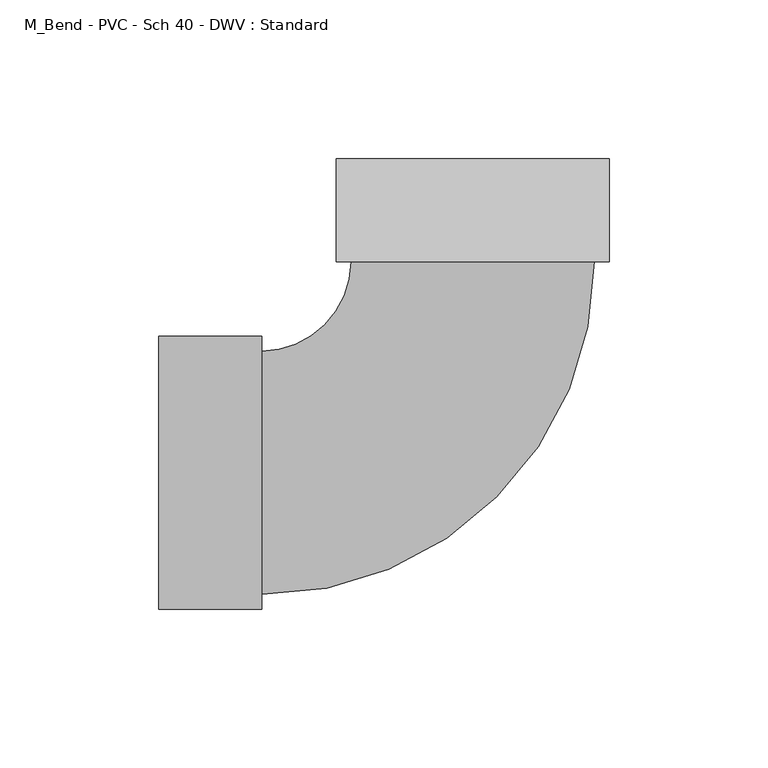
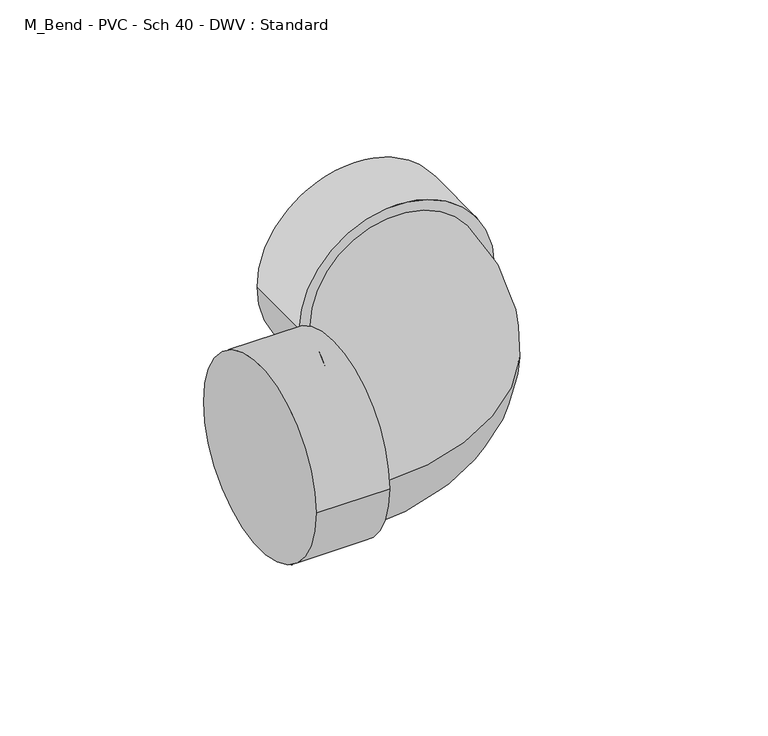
"""IFC4 building model written with IfcOpenShell, lengths in millimetres: pipe fitting geometry, M_Bend - PVC - Sch 40 - DWV : Standard."""

from ifc_helpers import new_model, si_unit, point, frame, origin, place, context, project, spatial, circle_curve, ellipse_curve, trimmed, source, transform, mapped, element, save
from ifc_brep_helpers import plane_surface, cylinder_surface, revolved_surface, advanced_brep


def m_bend_pvc_sch_40_dwv_standard_33e831c1(model_context):
    return source(origin(), model_context, "Body", "AdvancedBrep", [
        advanced_brep(
        [(-99.0140625, -43.0871094, 0.0), (-99.0140625, 43.0871094, 0.0), (-66.5140625, -43.0871094, 0.0), (-66.5140625, 43.0871094, 0.0), (-66.5140625, -38.3640625, 0.0), (-66.5140625, 38.3640625, 0.0), (-38.3574116, 66.5178982, 0.0), (38.370713, 66.5102261, 0.0), (43.0937599, 66.5097539, 0.0), (-43.0804584, 66.5183704, 0.0), (43.0970096, 99.0097537, 0.0), (-43.0772087, 99.0183703, 0.0)],
        [
            (0, 1, circle_curve(frame((-99.0140625, 0.0, 0.0), z_axis=(-1.0, 0.0, 0.0), x_axis=(0.0, 1.0, 0.0)), 43.0871094)),
            (1, 0, circle_curve(frame((-99.0140625, 0.0, 0.0), z_axis=(-1.0, 0.0, 0.0), x_axis=(0.0, 1.0, 0.0)), 43.0871094)),
            (2, 3, circle_curve(frame((-66.5140625, 0.0, 0.0), z_axis=(1.0, 0.0, 0.0), x_axis=(0.0, 1.0, 0.0)), 43.0871094)),
            (3, 2, circle_curve(frame((-66.5140625, 0.0, 0.0), z_axis=(1.0, 0.0, 0.0), x_axis=(0.0, 1.0, 0.0)), 43.0871094)),
            (4, 5, circle_curve(frame((-66.5140625, 0.0, 0.0), z_axis=(-1.0, 0.0, 0.0), x_axis=(0.0, 1.0, 0.0)), 38.3640625)),
            (5, 4, circle_curve(frame((-66.5140625, 0.0, 0.0), z_axis=(-1.0, 0.0, 0.0), x_axis=(0.0, 1.0, 0.0)), 38.3640625)),
            (0, 2),
            (3, 1),
            (6, 5, circle_curve(frame((-66.5140625, 66.5207136, 0.0), z_axis=(0.0, 0.0, -1.0), x_axis=(0.0, -1.0, 0.0)), 28.1566511)),
            (4, 7, circle_curve(frame((-66.5140625, 66.5207136, 0.0), z_axis=(0.0, 0.0, 1.0), x_axis=(0.0, -1.0, 0.0)), 104.8847761)),
            (7, 6, circle_curve(frame((0.0066507, 66.5140622, 0.0), z_axis=(-9.999000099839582e-05, -0.9999999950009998, 0.0), x_axis=(-0.9999999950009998, 9.999000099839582e-05, 0.0)), 38.3640625)),
            (6, 7, circle_curve(frame((0.0066507, 66.5140622, 0.0), z_axis=(-9.999000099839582e-05, -0.9999999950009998, 0.0), x_axis=(-0.9999999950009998, 9.999000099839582e-05, 0.0)), 38.3640625)),
            (8, 9, circle_curve(frame((0.0066507, 66.5140622, 0.0), z_axis=(-9.999000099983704e-05, -0.9999999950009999, 0.0), x_axis=(-0.9999999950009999, 9.999000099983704e-05, 0.0)), 43.0871094)),
            (9, 8, circle_curve(frame((0.0066507, 66.5140622, 0.0), z_axis=(-9.999000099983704e-05, -0.9999999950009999, 0.0), x_axis=(-0.9999999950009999, 9.999000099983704e-05, 0.0)), 43.0871094)),
            (10, 11, circle_curve(frame((0.0099004, 99.014062, 0.0), z_axis=(9.999000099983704e-05, 0.9999999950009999, 0.0), x_axis=(-0.9999999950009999, 9.999000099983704e-05, 0.0)), 43.0871094)),
            (11, 10, circle_curve(frame((0.0099004, 99.014062, 0.0), z_axis=(9.999000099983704e-05, 0.9999999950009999, 0.0), x_axis=(-0.9999999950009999, 9.999000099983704e-05, 0.0)), 43.0871094)),
            (8, 10),
            (11, 9),
        ],
        [
            plane_surface(frame((-99.0140625, 0.0, 0.0), z_axis=(-1.0, 0.0, 0.0), x_axis=(0.0, 0.0, 1.0))),
            plane_surface(frame((-66.5140625, 0.0, 0.0), z_axis=(1.0, 0.0, 0.0), x_axis=(0.0, 0.0, 1.0))),
            cylinder_surface(frame((-99.0140625, 0.0, 0.0), z_axis=(-1.0, 0.0, 0.0), x_axis=(0.0, 1.0, 0.0)), 43.0871094),
            revolved_surface(trimmed(ellipse_curve(frame((-66.5140625, 0.0, 0.0), z_axis=(-1.0, 0.0, 0.0), x_axis=(0.0, 1.0, 0.0)), 38.3640625, 38.3640625), [point((-66.5140625, -38.3640625, 0.0))], [point((-66.5140625, 38.3640625, 0.0))], True, "CARTESIAN"), (-66.5140625, 66.5207136, 0.0), (0.0, 0.0, 1.0)),
            revolved_surface(trimmed(ellipse_curve(frame((-66.5140625, 0.0, 0.0), z_axis=(-1.0, 0.0, 0.0), x_axis=(0.0, 1.0, 0.0)), 38.3640625, 38.3640625), [point((-66.5140625, 38.3640625, 0.0))], [point((-66.5140625, -38.3640625, 0.0))], True, "CARTESIAN"), (-66.5140625, 66.5207136, 0.0), (0.0, 0.0, 1.0)),
            plane_surface(frame((0.0066507, 66.5140622, 0.0), z_axis=(-9.999000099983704e-05, -0.9999999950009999, 0.0), x_axis=(0.0, 0.0, 1.0))),
            plane_surface(frame((0.0099004, 99.014062, 0.0), z_axis=(9.999000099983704e-05, 0.9999999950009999, 0.0), x_axis=(0.0, 0.0, 1.0))),
            cylinder_surface(frame((0.0066507, 66.5140622, 0.0), z_axis=(-9.999000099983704e-05, -0.9999999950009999, 0.0), x_axis=(-0.9999999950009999, 9.999000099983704e-05, 0.0)), 43.0871094),
        ],
        [
            (0, [[1, 2]]),
            (1, [[3, 4], [5, 6]]),
            (2, [[-1, 7, -4, 8]]),
            (2, [[-2, -8, -3, -7]]),
            (3, [[9, -5, 10, 11]]),
            (4, [[-9, 12, -10, -6]]),
            (5, [[13, 14], [-11, -12]]),
            (6, [[15, 16]]),
            (7, [[-13, 17, -16, 18]]),
            (7, [[-14, -18, -15, -17]]),
        ],
    ),
    ])


if __name__ == "__main__":
    model = new_model("IFC4")
    model_context = context("Model", 3, world=origin())
    ifc_project = project(units=[si_unit("LENGTHUNIT", "METRE", prefix="MILLI")], contexts=[model_context])
    site = spatial("IfcSite", under=ifc_project)
    building = spatial("IfcBuilding", under=site)
    placement = place(None, origin())
    m_bend_pvc_sch_40_dwv_standard_shape = m_bend_pvc_sch_40_dwv_standard_33e831c1(model_context)
    element("IfcPipeFitting", 1, ObjectType="M_Bend - PVC - Sch 40 - DWV : Standard", at=placement, inside=building, context=model_context, shape_type="MappedRepresentation", body=[
        mapped(m_bend_pvc_sch_40_dwv_standard_shape, transform((0.0, 0.0, 0.0), x_axis=(1.0, 0.0, 0.0), y_axis=(0.0, 1.0, 0.0), z_axis=(0.0, 0.0, 1.0))),
    ])
    save(model, "model.ifc")
